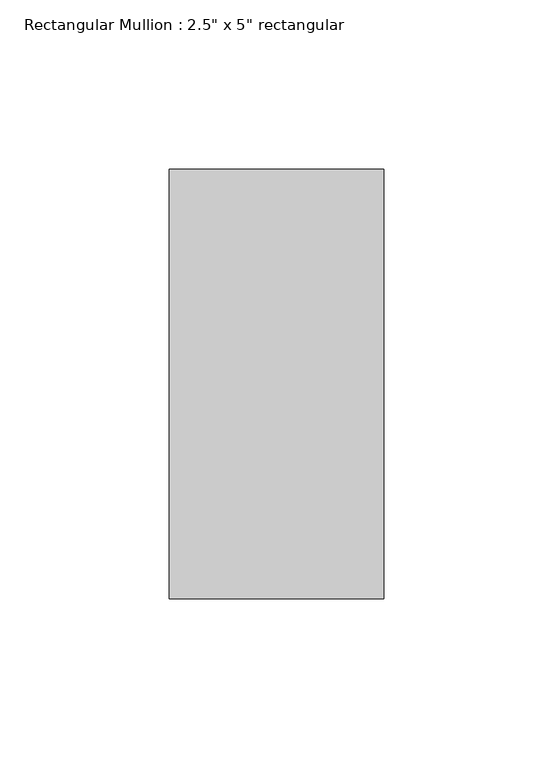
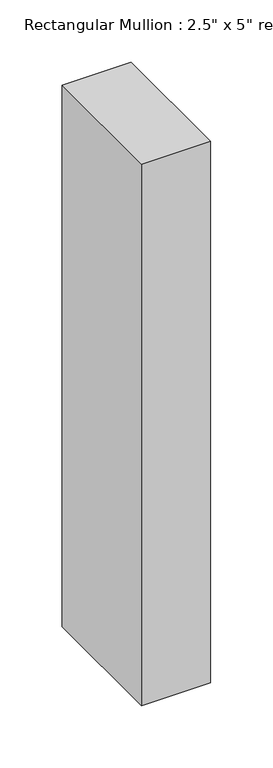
"""IFC4 building model written with IfcOpenShell, lengths in millimetres: member geometry."""

from ifc_helpers import new_model, si_unit, frame, origin, place, context, project, spatial, polyline, outline, extrude, source, transform, mapped, element, save


def member_0ac0aea5(model_context):
    return source(origin(), model_context, "Body", "SweptSolid", [
        extrude(outline(polyline([(31.75, 63.5), (31.75, -63.5), (-31.75, -63.5), (-31.75, 63.5), (31.75, 63.5)])), frame((0.0, 0.0, -528.960497), z_axis=(0.0, 0.0, 1.0), x_axis=(1.0, 0.0, 0.0)), (0.0, 0.0, 1.0), 528.960497),
    ])


if __name__ == "__main__":
    model = new_model("IFC4")
    model_context = context("Model", 3, world=origin())
    ifc_project = project(units=[si_unit("LENGTHUNIT", "METRE", prefix="MILLI")], contexts=[model_context])
    site = spatial("IfcSite", under=ifc_project)
    building = spatial("IfcBuilding", under=site)
    placement = place(None, origin())
    member_shape = member_0ac0aea5(model_context)
    element("IfcMember", 1, ObjectType="Rectangular Mullion : 2.5\" x 5\" rectangular", at=placement, inside=building, context=model_context, shape_type="MappedRepresentation", body=[
        mapped(member_shape, transform((0.0, 0.0, 0.0), x_axis=(1.0, 0.0, 0.0), y_axis=(0.0, 1.0, 0.0), z_axis=(0.0, 0.0, 1.0))),
    ])
    save(model, "model.ifc")
